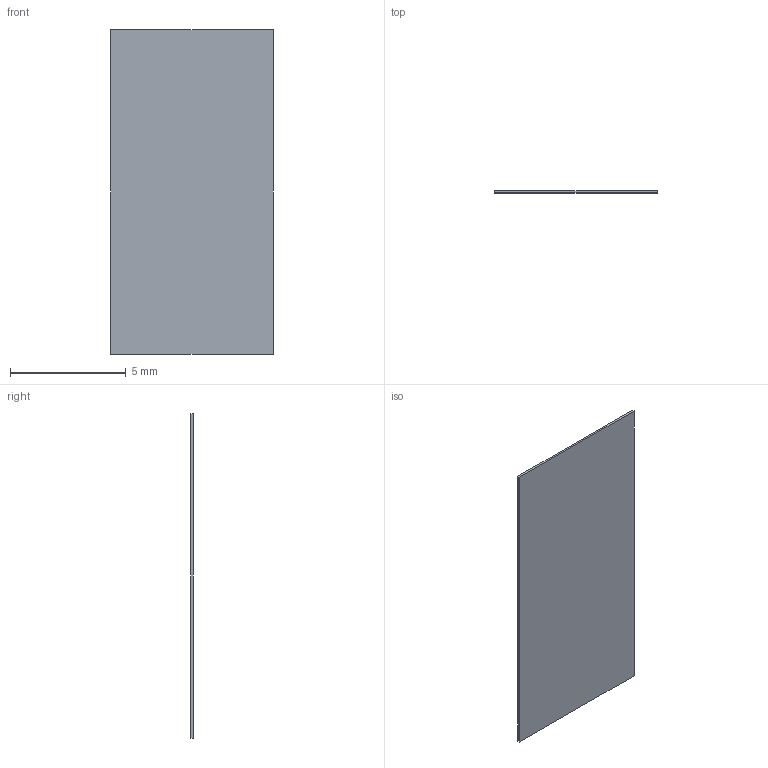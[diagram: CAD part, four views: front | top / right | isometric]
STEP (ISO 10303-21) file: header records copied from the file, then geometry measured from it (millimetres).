
FILE_DESCRIPTION((''),'2;1');
FILE_NAME('GTA02-MCD01_PRT','2008-06-30T',('GRA'),(''),'PRO/ENGINEER BY PARAMETRIC TECHNOLOGY CORPORATION, 2006170','PRO/ENGINEER BY PARAMETRIC TECHNOLOGY CORPORATION, 2006170','');
FILE_SCHEMA(('CONFIG_CONTROL_DESIGN'));
Length unit declared in the file: millimetre
Products named in the file (1): GTA02-MCD01_PRT
Bounding box: 7 x 0.1 x 14 mm (x, y, z)
Volume: 9.8 mm3; surface area: 200.2 mm2
Topology: 1 solids, 1 shells, 6 faces, 12 edges, 8 vertices
Faces by surface type: plane 6
Entity records: 194 total; most frequent: CARTESIAN_POINT 26, DIRECTION 24, ORIENTED_EDGE 24, VECTOR 12, LINE 12, EDGE_CURVE 12, VERTEX_POINT 8, AXIS2_PLACEMENT_3D 6
